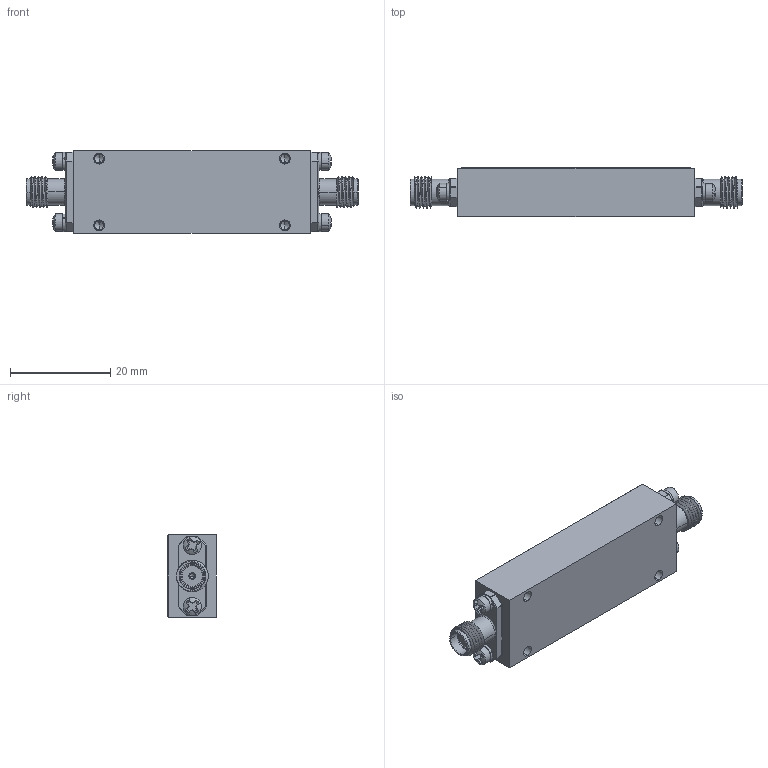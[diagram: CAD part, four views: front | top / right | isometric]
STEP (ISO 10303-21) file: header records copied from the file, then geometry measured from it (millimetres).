
FILE_DESCRIPTION (( 'STEP AP214' ), '1' );
FILE_NAME ('3D STEP LM-10M2D5G-100CW-1KWP-SFF-ROHS.STEP', '2024-03-28T17:09:47', ( '' ), ( '' ), 'SwSTEP 2.0', 'SolidWorks 2023', '' );
FILE_SCHEMA (( 'AUTOMOTIVE_DESIGN' ));
Length unit declared in the file: inch
Products named in the file (1): 3D STEP LM-10M2D5G-100CW-1KWP-SFF-ROHS
Bounding box: 66.29 x 9.78 x 16.51 mm (x, y, z)
Volume: 8240.3 mm3; surface area: 5791.5 mm2
Topology: 16 solids, 16 shells, 625 faces, 2952 edges, 2474 vertices
Faces by surface type: plane 291, cylinder 162, torus 80, cone 44, sphere 40, bspline 8
Entity records: 33001 total; most frequent: CARTESIAN_POINT 8159, ORIENTED_EDGE 5808, DIRECTION 4461, EDGE_CURVE 2904, VERTEX_POINT 2474, LINE 2029, VECTOR 2029, AXIS2_PLACEMENT_3D 1216
